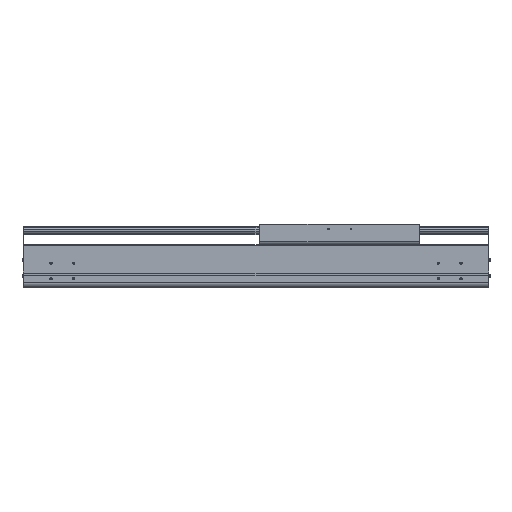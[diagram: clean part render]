
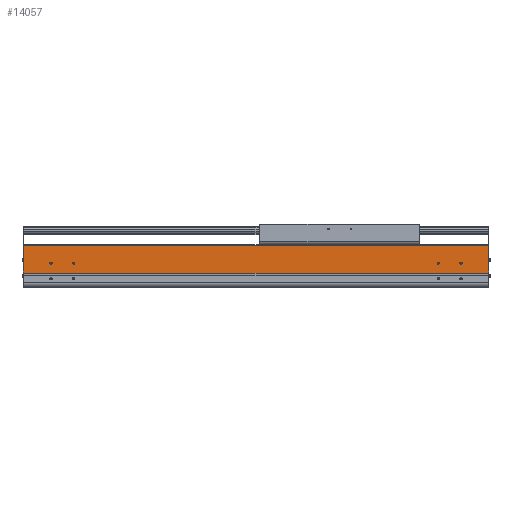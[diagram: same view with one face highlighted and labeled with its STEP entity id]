
A CAD part, top view. The second image highlights one B-rep face of the part: STEP entity #14057.
In plain terms, the highlighted planar face has unit normal (0, 0, 1).
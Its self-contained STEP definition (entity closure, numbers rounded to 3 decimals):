
#538=DIRECTION('',(0.,-1.,0.));
#539=VECTOR('',#538,2.55);
#540=CARTESIAN_POINT('',(0.,34.65,107.));
#541=LINE('',#540,#539);
#2191=DIRECTION('',(1.,0.,0.));
#2192=VECTOR('',#2191,2.);
#2193=CARTESIAN_POINT('',(0.,34.65,107.));
#2194=LINE('',#2193,#2192);
#2199=CARTESIAN_POINT('',(-59.5,54.,107.));
#2200=DIRECTION('',(0.,0.,-1.));
#2201=DIRECTION('',(1.,0.,0.));
#2202=AXIS2_PLACEMENT_3D('',#2199,#2200,#2201);
#2204=CARTESIAN_POINT('',(-59.5,54.,107.));
#2205=DIRECTION('',(0.,0.,-1.));
#2206=DIRECTION('',(-1.,0.,0.));
#2207=AXIS2_PLACEMENT_3D('',#2204,#2205,#2206);
#2209=CARTESIAN_POINT('',(-109.5,54.,107.));
#2210=DIRECTION('',(0.,0.,-1.));
#2211=DIRECTION('',(1.,0.,0.));
#2212=AXIS2_PLACEMENT_3D('',#2209,#2210,#2211);
#2214=CARTESIAN_POINT('',(-109.5,54.,107.));
#2215=DIRECTION('',(0.,0.,-1.));
#2216=DIRECTION('',(-1.,0.,0.));
#2217=AXIS2_PLACEMENT_3D('',#2214,#2215,#2216);
#2219=CARTESIAN_POINT('',(-959.5,54.,107.));
#2220=DIRECTION('',(0.,0.,-1.));
#2221=DIRECTION('',(1.,0.,0.));
#2222=AXIS2_PLACEMENT_3D('',#2219,#2220,#2221);
#2224=CARTESIAN_POINT('',(-959.5,54.,107.));
#2225=DIRECTION('',(0.,0.,-1.));
#2226=DIRECTION('',(-1.,0.,0.));
#2227=AXIS2_PLACEMENT_3D('',#2224,#2225,#2226);
#2229=CARTESIAN_POINT('',(-909.5,54.,107.));
#2230=DIRECTION('',(0.,0.,-1.));
#2231=DIRECTION('',(1.,0.,0.));
#2232=AXIS2_PLACEMENT_3D('',#2229,#2230,#2231);
#2234=CARTESIAN_POINT('',(-909.5,54.,107.));
#2235=DIRECTION('',(0.,0.,-1.));
#2236=DIRECTION('',(-1.,0.,0.));
#2237=AXIS2_PLACEMENT_3D('',#2234,#2235,#2236);
#2239=DIRECTION('',(0.,-1.,0.));
#2240=VECTOR('',#2239,2.55);
#2241=CARTESIAN_POINT('',(-1019.,34.65,107.));
#2242=LINE('',#2241,#2240);
#2243=DIRECTION('',(0.,-1.,0.));
#2244=VECTOR('',#2243,58.85);
#2245=CARTESIAN_POINT('',(-1021.,93.5,107.));
#2246=LINE('',#2245,#2244);
#2247=DIRECTION('',(0.,1.,0.));
#2248=VECTOR('',#2247,58.85);
#2249=CARTESIAN_POINT('',(2.,34.65,107.));
#2250=LINE('',#2249,#2248);
#2251=DIRECTION('',(1.,0.,0.));
#2252=VECTOR('',#2251,1019.);
#2253=CARTESIAN_POINT('',(-1019.,32.1,107.));
#2254=LINE('',#2253,#2252);
#2363=DIRECTION('',(1.,0.,0.));
#2364=VECTOR('',#2363,2.);
#2365=CARTESIAN_POINT('',(-1021.,34.65,107.));
#2366=LINE('',#2365,#2364);
#2375=DIRECTION('',(-1.,0.,0.));
#2376=VECTOR('',#2375,1023.);
#2377=CARTESIAN_POINT('',(2.,93.5,107.));
#2378=LINE('',#2377,#2376);
#8861=CARTESIAN_POINT('',(-1021.,34.65,107.));
#8862=VERTEX_POINT('',#8861);
#8863=CARTESIAN_POINT('',(-1021.,93.5,107.));
#8864=VERTEX_POINT('',#8863);
#9093=CARTESIAN_POINT('',(-1019.,32.1,107.));
#9094=VERTEX_POINT('',#9093);
#9361=CARTESIAN_POINT('',(0.,32.1,107.));
#9362=VERTEX_POINT('',#9361);
#9363=CARTESIAN_POINT('',(-57.,54.,107.));
#9364=CARTESIAN_POINT('',(-62.,54.,107.));
#9365=VERTEX_POINT('',#9363);
#9366=VERTEX_POINT('',#9364);
#9367=CARTESIAN_POINT('',(-107.,54.,107.));
#9368=CARTESIAN_POINT('',(-112.,54.,107.));
#9369=VERTEX_POINT('',#9367);
#9370=VERTEX_POINT('',#9368);
#9371=CARTESIAN_POINT('',(-957.,54.,107.));
#9372=CARTESIAN_POINT('',(-962.,54.,107.));
#9373=VERTEX_POINT('',#9371);
#9374=VERTEX_POINT('',#9372);
#9375=CARTESIAN_POINT('',(-907.,54.,107.));
#9376=CARTESIAN_POINT('',(-912.,54.,107.));
#9377=VERTEX_POINT('',#9375);
#9378=VERTEX_POINT('',#9376);
#10182=CARTESIAN_POINT('',(2.,34.65,107.));
#10183=VERTEX_POINT('',#10182);
#10184=CARTESIAN_POINT('',(2.,93.5,107.));
#10185=VERTEX_POINT('',#10184);
#10636=CARTESIAN_POINT('',(0.,34.65,107.));
#10637=VERTEX_POINT('',#10636);
#10716=CARTESIAN_POINT('',(-1019.,34.65,107.));
#10717=VERTEX_POINT('',#10716);
#14015=CARTESIAN_POINT('',(-509.5,62.8,107.));
#14016=DIRECTION('',(0.,0.,1.));
#14017=DIRECTION('',(0.,-1.,0.));
#14018=AXIS2_PLACEMENT_3D('',#14015,#14016,#14017);
#14019=PLANE('',#14018);
#14020=ORIENTED_EDGE('',*,*,#11516,.F.);
#14022=ORIENTED_EDGE('',*,*,#14021,.F.);
#14023=ORIENTED_EDGE('',*,*,#12613,.F.);
#14025=ORIENTED_EDGE('',*,*,#14024,.F.);
#14026=ORIENTED_EDGE('',*,*,#13813,.F.);
#14027=ORIENTED_EDGE('',*,*,#14008,.F.);
#14028=ORIENTED_EDGE('',*,*,#12131,.T.);
#14030=ORIENTED_EDGE('',*,*,#14029,.F.);
#14031=EDGE_LOOP('',(#14020,#14022,#14023,#14025,#14026,#14027,#14028,#14030));
#14032=FACE_OUTER_BOUND('',#14031,.F.);
#14034=ORIENTED_EDGE('',*,*,#14033,.F.);
#14036=ORIENTED_EDGE('',*,*,#14035,.F.);
#14037=EDGE_LOOP('',(#14034,#14036));
#14038=FACE_BOUND('',#14037,.F.);
#14040=ORIENTED_EDGE('',*,*,#14039,.F.);
#14042=ORIENTED_EDGE('',*,*,#14041,.F.);
#14043=EDGE_LOOP('',(#14040,#14042));
#14044=FACE_BOUND('',#14043,.F.);
#14046=ORIENTED_EDGE('',*,*,#14045,.F.);
#14048=ORIENTED_EDGE('',*,*,#14047,.F.);
#14049=EDGE_LOOP('',(#14046,#14048));
#14050=FACE_BOUND('',#14049,.F.);
#14052=ORIENTED_EDGE('',*,*,#14051,.F.);
#14054=ORIENTED_EDGE('',*,*,#14053,.F.);
#14055=EDGE_LOOP('',(#14052,#14054));
#14056=FACE_BOUND('',#14055,.F.);
#14057=ADVANCED_FACE('',(#14032,#14038,#14044,#14050,#14056),#14019,.T.);
#2203=CIRCLE('',#2202,2.5);
#2208=CIRCLE('',#2207,2.5);
#2213=CIRCLE('',#2212,2.5);
#2218=CIRCLE('',#2217,2.5);
#2223=CIRCLE('',#2222,2.5);
#2228=CIRCLE('',#2227,2.5);
#2233=CIRCLE('',#2232,2.5);
#2238=CIRCLE('',#2237,2.5);
#11516=EDGE_CURVE('',#10717,#9094,#2242,.T.);
#12131=EDGE_CURVE('',#10637,#9362,#541,.T.);
#12613=EDGE_CURVE('',#8864,#8862,#2246,.T.);
#13813=EDGE_CURVE('',#10183,#10185,#2250,.T.);
#14008=EDGE_CURVE('',#10637,#10183,#2194,.T.);
#14021=EDGE_CURVE('',#8862,#10717,#2366,.T.);
#14024=EDGE_CURVE('',#10185,#8864,#2378,.T.);
#14029=EDGE_CURVE('',#9094,#9362,#2254,.T.);
#14033=EDGE_CURVE('',#9369,#9370,#2213,.T.);
#14035=EDGE_CURVE('',#9370,#9369,#2218,.T.);
#14039=EDGE_CURVE('',#9373,#9374,#2223,.T.);
#14041=EDGE_CURVE('',#9374,#9373,#2228,.T.);
#14045=EDGE_CURVE('',#9377,#9378,#2233,.T.);
#14047=EDGE_CURVE('',#9378,#9377,#2238,.T.);
#14051=EDGE_CURVE('',#9365,#9366,#2203,.T.);
#14053=EDGE_CURVE('',#9366,#9365,#2208,.T.);
